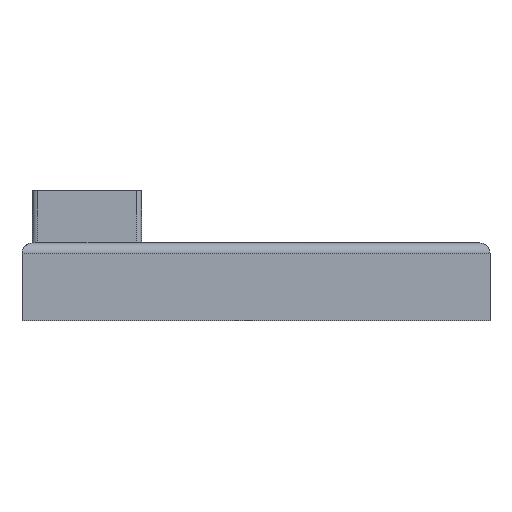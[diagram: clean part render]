
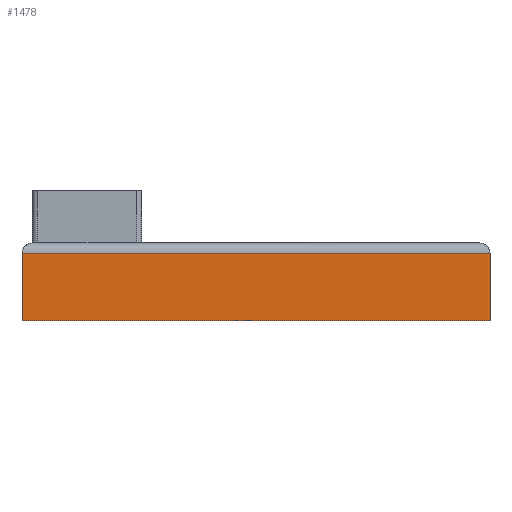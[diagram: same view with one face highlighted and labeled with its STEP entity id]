
A CAD part, left-side view. The second image highlights one B-rep face of the part: STEP entity #1478.
In plain terms, the highlighted planar face has unit normal (-1, 0, 0).
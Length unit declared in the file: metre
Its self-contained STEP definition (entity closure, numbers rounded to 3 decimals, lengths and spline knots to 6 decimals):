
#238=ORIENTED_EDGE('',*,*,#692,.F.);
#239=ORIENTED_EDGE('',*,*,#693,.T.);
#240=ORIENTED_EDGE('',*,*,#688,.T.);
#241=ORIENTED_EDGE('',*,*,#694,.T.);
#688=EDGE_CURVE('',#915,#916,#1012,.T.);
#692=EDGE_CURVE('',#919,#920,#1016,.T.);
#693=EDGE_CURVE('',#919,#915,#1017,.F.);
#694=EDGE_CURVE('',#916,#920,#1018,.T.);
#915=VERTEX_POINT('',#2412);
#916=VERTEX_POINT('',#2413);
#919=VERTEX_POINT('',#2421);
#920=VERTEX_POINT('',#2422);
#1012=LINE('',#2411,#1166);
#1016=LINE('',#2420,#1170);
#1017=LINE('',#2423,#1171);
#1018=LINE('',#2424,#1172);
#1166=VECTOR('',#1893,1.);
#1170=VECTOR('',#1899,1.);
#1171=VECTOR('',#1900,1.);
#1172=VECTOR('',#1901,1.);
#1267=EDGE_LOOP('',(#238,#239,#240,#241));
#1352=FACE_BOUND('',#1267,.T.);
#1435=PLANE('',#1625);
#1478=ADVANCED_FACE('',(#1352),#1435,.F.);
#1625=AXIS2_PLACEMENT_3D('',#2419,#1897,#1898);
#1893=DIRECTION('',(0.,0.,-1.));
#1897=DIRECTION('',(1.,0.,0.));
#1898=DIRECTION('',(0.,0.,-1.));
#1899=DIRECTION('',(0.,0.,-1.));
#1900=DIRECTION('',(0.,-1.,0.));
#1901=DIRECTION('',(0.,-1.,0.));
#2411=CARTESIAN_POINT('',(0.148731,0.33465,0.005));
#2412=CARTESIAN_POINT('',(0.148731,0.33465,0.013));
#2413=CARTESIAN_POINT('',(0.148731,0.33465,0.));
#2419=CARTESIAN_POINT('',(0.148731,0.28965,0.005));
#2420=CARTESIAN_POINT('',(0.148731,0.24465,0.005));
#2421=CARTESIAN_POINT('',(0.148731,0.24465,0.013));
#2422=CARTESIAN_POINT('',(0.148731,0.24465,0.));
#2423=CARTESIAN_POINT('',(0.148731,0.33465,0.013));
#2424=CARTESIAN_POINT('',(0.148731,0.28965,0.));
